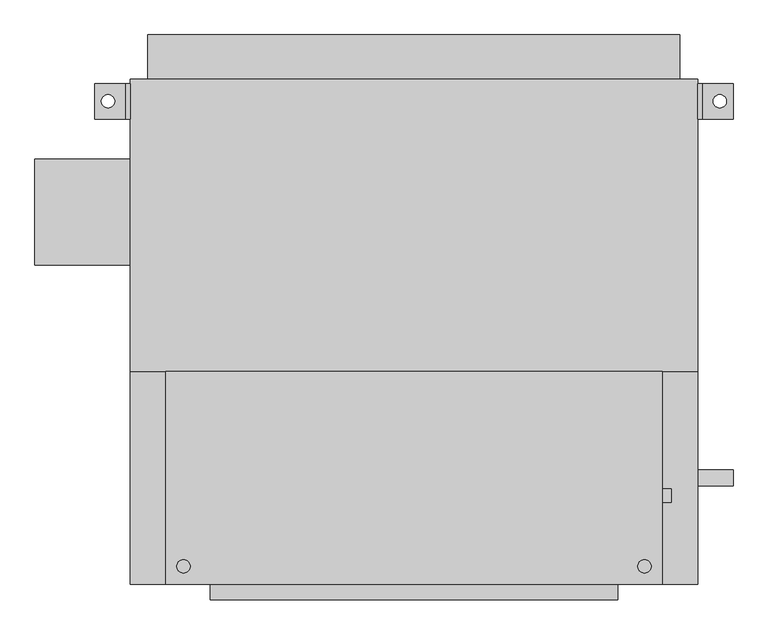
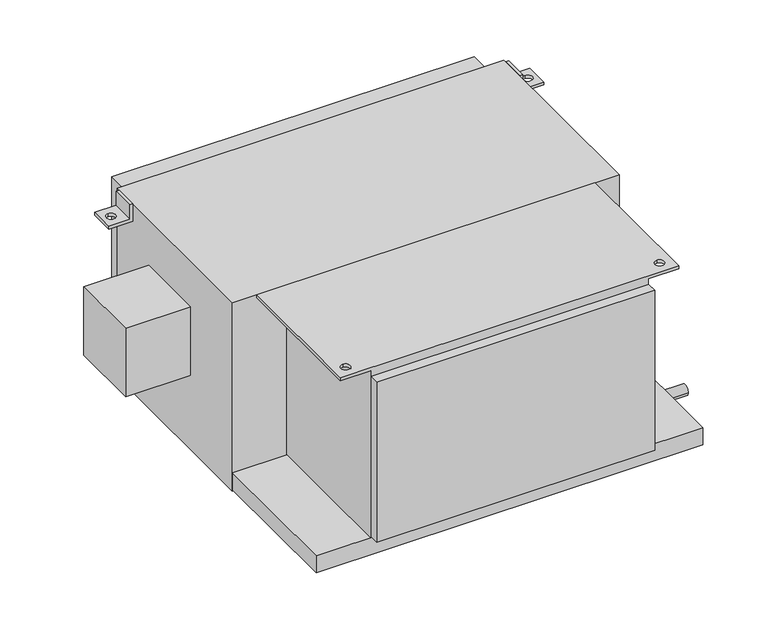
"""IFC4 building model written with IfcOpenShell, lengths in millimetres: proxy geometry, Concealed_High_Capacity_Horizontal_Fan_Coil_Unit_With_Plenum_-_42DCA_-_CARRIER_-_2-Pipe_Cool-EHeat_RH_2022 : Size 10 - 277v/60Hz/1Ph - 6 Row 7.0kW."""

from ifc_helpers import new_model, si_unit, point, frame, frame_2d, origin, place, context, project, spatial, polyline, circle_curve, trimmed, segment, composite_curve, outline, extrude, source, transform, mapped, element, save
from ifc_brep_helpers import plane_surface, revolved_surface, advanced_brep


def mechanical_equipment_fccde29a(model_context):
    return source(origin(), model_context, "Body", "SolidModel", [
        advanced_brep(
        [(-254.0, 327.025, -38.1), (-304.8, 327.025, -38.1), (-304.8, 327.025, -31.75), (-260.35, 327.025, -31.75), (-260.35, 327.025, 0.0), (-254.0, 327.025, 0.0), (-254.0, 276.225, -38.1), (-254.0, 276.225, 0.0), (-260.35, 276.225, 0.0), (-260.35, 276.225, -31.75), (-304.8, 276.225, -31.75), (-304.8, 276.225, -38.1), (-285.75, 292.1, -38.1), (-285.75, 311.15, -38.1), (-285.75, 311.15, -31.75), (-285.75, 292.1, -31.75)],
        [
            (0, 1),
            (1, 2),
            (2, 3),
            (3, 4),
            (4, 5),
            (5, 0),
            (6, 7),
            (7, 8),
            (8, 9),
            (9, 10),
            (10, 11),
            (11, 6),
            (0, 6),
            (11, 1),
            (12, 13, circle_curve(frame((-285.75, 301.625, -38.1), z_axis=(0.0, 0.0, 1.0), x_axis=(0.0, -1.0, 0.0)), 9.525)),
            (13, 12, circle_curve(frame((-285.75, 301.625, -38.1), z_axis=(0.0, 0.0, 1.0), x_axis=(0.0, -1.0, 0.0)), 9.525)),
            (10, 2),
            (9, 3),
            (14, 15, circle_curve(frame((-285.75, 301.625, -31.75), z_axis=(0.0, 0.0, -1.0), x_axis=(0.0, -1.0, 0.0)), 9.525)),
            (15, 14, circle_curve(frame((-285.75, 301.625, -31.75), z_axis=(0.0, 0.0, -1.0), x_axis=(0.0, -1.0, 0.0)), 9.525)),
            (8, 4),
            (7, 5),
            (14, 13),
            (12, 15),
        ],
        [
            plane_surface(frame((-254.0, 327.025, -38.1), z_axis=(0.0, 1.0, 0.0), x_axis=(-1.0, 0.0, 0.0))),
            plane_surface(frame((-254.0, 276.225, -38.1), z_axis=(0.0, -1.0, 0.0), x_axis=(1.0, 0.0, 0.0))),
            plane_surface(frame((-254.0, 327.025, -38.1), z_axis=(0.0, 0.0, -1.0), x_axis=(0.0, -1.0, 0.0))),
            plane_surface(frame((-304.8, 327.025, -38.1), z_axis=(-1.0, 0.0, 0.0), x_axis=(0.0, -1.0, 0.0))),
            plane_surface(frame((-304.8, 327.025, -31.75), z_axis=(0.0, 0.0, 1.0), x_axis=(0.0, -1.0, 0.0))),
            plane_surface(frame((-260.35, 327.025, -31.75), z_axis=(-1.0, 0.0, 0.0), x_axis=(0.0, -1.0, 0.0))),
            plane_surface(frame((-260.35, 327.025, 0.0), z_axis=(0.0, 0.0, 1.0), x_axis=(0.0, -1.0, 0.0))),
            plane_surface(frame((-254.0, 327.025, 0.0), z_axis=(1.0, 0.0, 0.0), x_axis=(0.0, -1.0, 0.0))),
            revolved_surface(polyline([(-285.75, 292.1, -38.1), (-285.75, 292.1, -31.75)]), (-285.75, 301.625, -31.75), (0.0, 0.0, -1.0)),
        ],
        [
            (0, [[1, 2, 3, 4, 5, 6]]),
            (1, [[7, 8, 9, 10, 11, 12]]),
            (2, [[-1, 13, -12, 14], [15, 16]]),
            (3, [[-2, -14, -11, 17]]),
            (4, [[-3, -17, -10, 18], [19, 20]]),
            (5, [[-4, -18, -9, 21]]),
            (6, [[-5, -21, -8, 22]]),
            (7, [[-6, -22, -7, -13]]),
            (8, [[23, -15, 24, -19]]),
            (8, [[-23, -20, -24, -16]]),
        ],
    ),
        advanced_brep(
        [(558.8, 327.025, -38.1), (558.8, 327.025, 0.0), (565.15, 327.025, 0.0), (565.15, 327.025, -31.75), (609.6, 327.025, -31.75), (609.6, 327.025, -38.1), (558.8, 276.225, -38.1), (609.6, 276.225, -38.1), (609.6, 276.225, -31.75), (565.15, 276.225, -31.75), (565.15, 276.225, 0.0), (558.8, 276.225, 0.0), (590.55, 311.15, -31.75), (590.55, 292.1, -31.75), (590.55, 292.1, -38.1), (590.55, 311.15, -38.1)],
        [
            (0, 1),
            (1, 2),
            (2, 3),
            (3, 4),
            (4, 5),
            (5, 0),
            (6, 7),
            (7, 8),
            (8, 9),
            (9, 10),
            (10, 11),
            (11, 6),
            (0, 6),
            (11, 1),
            (10, 2),
            (9, 3),
            (8, 4),
            (12, 13, circle_curve(frame((590.55, 301.625, -31.75), z_axis=(0.0, 0.0, -1.0), x_axis=(0.0, -1.0, 0.0)), 9.525)),
            (13, 12, circle_curve(frame((590.55, 301.625, -31.75), z_axis=(0.0, 0.0, -1.0), x_axis=(0.0, -1.0, 0.0)), 9.525)),
            (7, 5),
            (14, 15, circle_curve(frame((590.55, 301.625, -38.1), z_axis=(0.0, 0.0, 1.0), x_axis=(0.0, -1.0, 0.0)), 9.525)),
            (15, 14, circle_curve(frame((590.55, 301.625, -38.1), z_axis=(0.0, 0.0, 1.0), x_axis=(0.0, -1.0, 0.0)), 9.525)),
            (12, 15),
            (14, 13),
        ],
        [
            plane_surface(frame((-254.0, 327.025, -38.1), z_axis=(0.0, 1.0, 0.0), x_axis=(-1.0, 0.0, 0.0))),
            plane_surface(frame((-254.0, 276.225, -38.1), z_axis=(0.0, -1.0, 0.0), x_axis=(1.0, 0.0, 0.0))),
            plane_surface(frame((558.8, 327.025, -38.1), z_axis=(-1.0, 0.0, 0.0), x_axis=(0.0, -1.0, 0.0))),
            plane_surface(frame((558.8, 327.025, 0.0), z_axis=(0.0, 0.0, 1.0), x_axis=(0.0, -1.0, 0.0))),
            plane_surface(frame((565.15, 327.025, 0.0), z_axis=(1.0, 0.0, 0.0), x_axis=(0.0, -1.0, 0.0))),
            plane_surface(frame((565.15, 327.025, -31.75), z_axis=(0.0, 0.0, 1.0), x_axis=(0.0, -1.0, 0.0))),
            plane_surface(frame((609.6, 327.025, -31.75), z_axis=(1.0, 0.0, 0.0), x_axis=(0.0, -1.0, 0.0))),
            plane_surface(frame((609.6, 327.025, -38.1), z_axis=(0.0, 0.0, -1.0), x_axis=(0.0, -1.0, 0.0))),
            revolved_surface(polyline([(590.55, 292.1, -38.1), (590.55, 292.1, -31.75)]), (590.55, 301.625, -31.75), (0.0, 0.0, -1.0)),
        ],
        [
            (0, [[1, 2, 3, 4, 5, 6]]),
            (1, [[7, 8, 9, 10, 11, 12]]),
            (2, [[-1, 13, -12, 14]]),
            (3, [[-2, -14, -11, 15]]),
            (4, [[-3, -15, -10, 16]]),
            (5, [[-4, -16, -9, 17], [18, 19]]),
            (6, [[-5, -17, -8, 20]]),
            (7, [[-6, -20, -7, -13], [21, 22]]),
            (8, [[23, -21, 24, -18]]),
            (8, [[-23, -19, -24, -22]]),
        ],
    ),
        advanced_brep(
        [(444.5, -85.725, -377.825), (444.5, -390.525, -377.825), (-139.7, -390.525, -377.825), (-139.7, -85.725, -377.825), (-139.7, -390.525, -6.35), (-139.7, -85.725, -6.35), (444.5, -85.725, -6.35), (444.5, -390.525, -6.35), (-203.2, -85.725, -6.35), (-203.2, -390.525, -6.35), (-177.8, -355.6, -6.35), (-177.8, -374.65, -6.35), (508.0, -85.725, -6.35), (508.0, -390.525, -6.35), (482.6, -355.6, -6.35), (482.6, -374.65, -6.35), (-203.2, -85.725, 0.0), (-203.2, -390.525, 0.0), (508.0, -390.525, 0.0), (508.0, -85.725, 0.0), (-177.8, -374.65, 0.0), (-177.8, -355.6, 0.0), (482.6, -374.65, 0.0), (482.6, -355.6, 0.0)],
        [
            (0, 1),
            (1, 2),
            (2, 3),
            (3, 0),
            (2, 4),
            (4, 5),
            (5, 3),
            (0, 6),
            (6, 7),
            (7, 1),
            (8, 5),
            (4, 9),
            (9, 8),
            (10, 11, circle_curve(frame((-177.8, -365.125, -6.35), z_axis=(0.0, 0.0, 1.0), x_axis=(0.0, 1.0, 0.0)), 9.525)),
            (11, 10, circle_curve(frame((-177.8, -365.125, -6.35), z_axis=(0.0, 0.0, 1.0), x_axis=(0.0, 1.0, 0.0)), 9.525)),
            (12, 13),
            (13, 7),
            (6, 12),
            (14, 15, circle_curve(frame((482.6, -365.125, -6.35), z_axis=(0.0, 0.0, 1.0), x_axis=(0.0, 1.0, 0.0)), 9.525)),
            (15, 14, circle_curve(frame((482.6, -365.125, -6.35), z_axis=(0.0, 0.0, 1.0), x_axis=(0.0, 1.0, 0.0)), 9.525)),
            (16, 17),
            (17, 18),
            (18, 19),
            (19, 16),
            (20, 21, circle_curve(frame((-177.8, -365.125, 0.0), z_axis=(0.0, 0.0, -1.0), x_axis=(0.0, 1.0, 0.0)), 9.525)),
            (21, 20, circle_curve(frame((-177.8, -365.125, 0.0), z_axis=(0.0, 0.0, -1.0), x_axis=(0.0, 1.0, 0.0)), 9.525)),
            (22, 23, circle_curve(frame((482.6, -365.125, 0.0), z_axis=(0.0, 0.0, -1.0), x_axis=(0.0, 1.0, 0.0)), 9.525)),
            (23, 22, circle_curve(frame((482.6, -365.125, 0.0), z_axis=(0.0, 0.0, -1.0), x_axis=(0.0, 1.0, 0.0)), 9.525)),
            (9, 17),
            (16, 8),
            (13, 18),
            (19, 12),
            (20, 11),
            (10, 21),
            (22, 15),
            (14, 23),
        ],
        [
            plane_surface(frame((-139.7, -85.725, -377.825), z_axis=(0.0, 0.0, -1.0), x_axis=(1.0, 0.0, 0.0))),
            plane_surface(frame((-139.7, -85.725, 0.0), z_axis=(-1.0, 0.0, 0.0), x_axis=(0.0, 0.0, -1.0))),
            plane_surface(frame((444.5, -390.525, 0.0), z_axis=(1.0, 0.0, 0.0), x_axis=(0.0, 0.0, -1.0))),
            plane_surface(frame((-203.2, -85.725, -6.35), z_axis=(0.0, 0.0, -1.0), x_axis=(0.0, 1.0, 0.0))),
            plane_surface(frame((-203.2, -85.725, 0.0), z_axis=(0.0, 0.0, 1.0), x_axis=(0.0, -1.0, 0.0))),
            plane_surface(frame((-203.2, -85.725, 0.0), z_axis=(-1.0, 0.0, 0.0), x_axis=(0.0, 0.0, -1.0))),
            plane_surface(frame((-203.2, -390.525, 0.0), z_axis=(0.0, -1.0, 0.0), x_axis=(0.0, 0.0, -1.0))),
            plane_surface(frame((-139.7, -85.725, 0.0), z_axis=(0.0, 1.0, 0.0), x_axis=(0.0, 0.0, -1.0))),
            plane_surface(frame((508.0, -390.525, 0.0), z_axis=(1.0, 0.0, 0.0), x_axis=(0.0, 0.0, -1.0))),
            revolved_surface(polyline([(-177.8, -355.6, -6.35), (-177.8, -355.6, 0.0)]), (-177.8, -365.125, 0.0), (0.0, 0.0, -1.0)),
            revolved_surface(polyline([(482.6, -355.6, -6.35), (482.6, -355.6, 0.0)]), (482.6, -365.125, 0.0), (0.0, 0.0, -1.0)),
        ],
        [
            (0, [[1, 2, 3, 4]]),
            (1, [[-3, 5, 6, 7]]),
            (2, [[-1, 8, 9, 10]]),
            (3, [[11, -6, 12, 13], [14, 15]]),
            (3, [[16, 17, -9, 18], [19, 20]]),
            (4, [[21, 22, 23, 24], [25, 26], [27, 28]]),
            (5, [[-13, 29, -21, 30]]),
            (6, [[-12, -5, -2, -10, -17, 31, -22, -29]]),
            (7, [[-11, -30, -24, 32, -18, -8, -4, -7]]),
            (8, [[-16, -32, -23, -31]]),
            (9, [[33, -14, 34, -25]]),
            (9, [[-33, -26, -34, -15]]),
            (10, [[35, -19, 36, -27]]),
            (10, [[-35, -28, -36, -20]]),
        ],
    ),
        extrude(outline(polyline([(-228.6, 396.875), (533.4, 396.875), (533.4, 333.375), (-228.6, 333.375), (-228.6, 396.875)])), frame((0.0, 0.0, -381.0), z_axis=(0.0, 0.0, 1.0), x_axis=(1.0, 0.0, 0.0)), (0.0, 0.0, 1.0), 358.775),
        extrude(outline(composite_curve([segment(trimmed(circle_curve(frame_2d((-263.525, -76.2)), 9.525), [point((-254.0, -76.2))], [point((-273.05, -76.2))], False, "CARTESIAN"), True, "CONTINUOUS"), segment(trimmed(circle_curve(frame_2d((-263.525, -76.2)), 9.525), [point((-273.05, -76.2))], [point((-254.0, -76.2))], False, "CARTESIAN"), True, "CONTINUOUS")], self_intersect=False)), frame((444.5, 0.0, 0.0), z_axis=(1.0, 0.0, 0.0), x_axis=(0.0, 1.0, 0.0)), (0.0, 0.0, 1.0), 76.2),
        extrude(outline(composite_curve([segment(trimmed(circle_curve(frame_2d((-263.525, -301.625)), 9.525), [point((-254.0, -301.625))], [point((-273.05, -301.625))], False, "CARTESIAN"), True, "CONTINUOUS"), segment(trimmed(circle_curve(frame_2d((-263.525, -301.625)), 9.525), [point((-273.05, -301.625))], [point((-254.0, -301.625))], False, "CARTESIAN"), True, "CONTINUOUS")], self_intersect=False)), frame((444.5, 0.0, 0.0), z_axis=(1.0, 0.0, 0.0), x_axis=(0.0, 1.0, 0.0)), (0.0, 0.0, 1.0), 76.2),
        extrude(outline(composite_curve([segment(trimmed(circle_curve(frame_2d((-238.125, -403.225)), 11.1125), [point((-227.0125, -403.225))], [point((-249.2375, -403.225))], False, "CARTESIAN"), True, "CONTINUOUS"), segment(trimmed(circle_curve(frame_2d((-238.125, -403.225)), 11.1125), [point((-249.2375, -403.225))], [point((-227.0125, -403.225))], False, "CARTESIAN"), True, "CONTINUOUS")], self_intersect=False)), frame((558.8, 0.0, 0.0), z_axis=(1.0, 0.0, 0.0), x_axis=(0.0, 1.0, 0.0)), (0.0, 0.0, 1.0), 50.8),
        extrude(outline(polyline([(-390.525, 66.675), (-390.525, 219.075), (-254.0, 219.075), (-254.0, 66.675), (-390.525, 66.675)])), frame((0.0, 0.0, -254.0), z_axis=(0.0, 0.0, 1.0), x_axis=(1.0, 0.0, 0.0)), (0.0, 0.0, 1.0), 152.4),
        extrude(outline(polyline([(444.5, -412.75), (-139.7, -412.75), (-139.7, -390.525), (444.5, -390.525), (444.5, -412.75)])), frame((0.0, 0.0, -374.65), z_axis=(0.0, 0.0, 1.0), x_axis=(1.0, 0.0, 0.0)), (0.0, 0.0, 1.0), 355.6),
        extrude(outline(polyline([(558.8, -85.725), (-254.0, -85.725), (-254.0, 333.375), (558.8, 333.375), (558.8, -85.725)])), frame((0.0, 0.0, -419.1), z_axis=(0.0, 0.0, 1.0), x_axis=(1.0, 0.0, 0.0)), (0.0, 0.0, 1.0), 419.1),
        extrude(outline(polyline([(558.8, -85.725), (558.8, -390.525), (-254.0, -390.525), (-254.0, -85.725), (558.8, -85.725)])), frame((0.0, 0.0, -415.925), z_axis=(0.0, 0.0, 1.0), x_axis=(1.0, 0.0, 0.0)), (0.0, 0.0, 1.0), 38.1),
    ])


if __name__ == "__main__":
    model = new_model("IFC4")
    model_context = context("Model", 3, world=origin())
    ifc_project = project(units=[si_unit("LENGTHUNIT", "METRE", prefix="MILLI")], contexts=[model_context])
    site = spatial("IfcSite", under=ifc_project)
    building = spatial("IfcBuilding", under=site)
    placement = place(None, origin())
    mechanical_equipment_shape = mechanical_equipment_fccde29a(model_context)
    element("IfcBuildingElementProxy", 1, Name="Concealed_High_Capacity_Horizontal_Fan_Coil_Unit_With_Plenum_-_42DCA_-_CARRIER_-_2-Pipe_Cool-EHeat_RH_2022 : Size 10 - 277v/60Hz/1Ph - 6 Row 7.0kW", ObjectType="Concealed_High_Capacity_Horizontal_Fan_Coil_Unit_With_Plenum_-_42DCA_-_CARRIER_-_2-Pipe_Cool-EHeat_RH_2022 : Size 10 - 277v/60Hz/1Ph - 6 Row 7.0kW", at=placement, inside=building, context=model_context, shape_type="MappedRepresentation", body=[
        mapped(mechanical_equipment_shape, transform((0.0, 0.0, 0.0), x_axis=(1.0, 0.0, 0.0), y_axis=(0.0, 1.0, 0.0), z_axis=(0.0, 0.0, 1.0))),
    ])
    save(model, "model.ifc")
